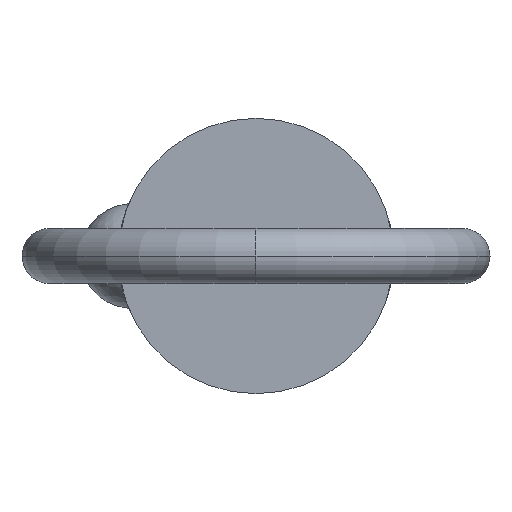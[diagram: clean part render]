
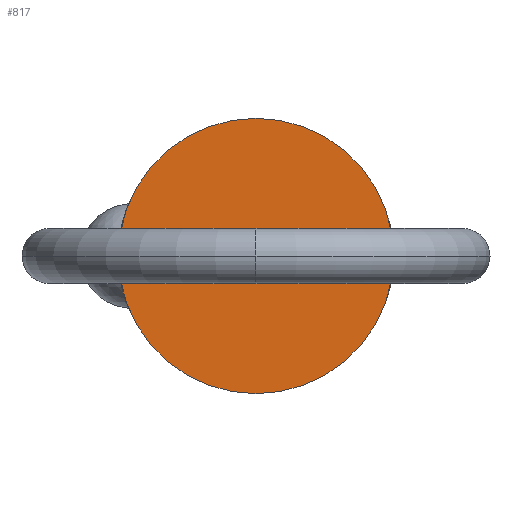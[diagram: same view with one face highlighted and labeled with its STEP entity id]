
A CAD part, left-side view. The second image highlights one B-rep face of the part: STEP entity #817.
In plain terms, the highlighted planar face has unit normal (-1, 0, 0).
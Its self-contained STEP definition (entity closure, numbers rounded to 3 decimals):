
#1 = DIRECTION ( 'NONE',  ( -1., 0., 0. ) ) ;
#12 = EDGE_LOOP ( 'NONE', ( #722, #523 ) ) ;
#15 = CARTESIAN_POINT ( 'NONE',  ( 0., 0., 12.7 ) ) ;
#18 = DIRECTION ( 'NONE',  ( 0., 0., -1. ) ) ;
#69 = VERTEX_POINT ( 'NONE', #15 ) ;
#128 = CARTESIAN_POINT ( 'NONE',  ( 0., 0., -12.7 ) ) ;
#158 = DIRECTION ( 'NONE',  ( 1., 0., 0. ) ) ;
#161 = DIRECTION ( 'NONE',  ( 1., 0., 0. ) ) ;
#212 = CIRCLE ( 'NONE', #815, 12.7 ) ;
#219 = AXIS2_PLACEMENT_3D ( 'NONE', #947, #161, #18 ) ;
#239 = CARTESIAN_POINT ( 'NONE',  ( 0., 0., 0. ) ) ;
#302 = AXIS2_PLACEMENT_3D ( 'NONE', #834, #1, #311 ) ;
#311 = DIRECTION ( 'NONE',  ( 0., 0., 1. ) ) ;
#382 = FACE_OUTER_BOUND ( 'NONE', #12, .T. ) ;
#444 = EDGE_CURVE ( 'NONE', #682, #69, #212, .T. ) ;
#523 = ORIENTED_EDGE ( 'NONE', *, *, #979, .F. ) ;
#682 = VERTEX_POINT ( 'NONE', #128 ) ;
#722 = ORIENTED_EDGE ( 'NONE', *, *, #444, .F. ) ;
#815 = AXIS2_PLACEMENT_3D ( 'NONE', #239, #158, #846 ) ;
#817 = ADVANCED_FACE ( 'NONE', ( #382 ), #925, .T. ) ;
#834 = CARTESIAN_POINT ( 'NONE',  ( 0., 0., 0. ) ) ;
#846 = DIRECTION ( 'NONE',  ( 0., 0., -1. ) ) ;
#925 = PLANE ( 'NONE',  #302 ) ;
#947 = CARTESIAN_POINT ( 'NONE',  ( 0., 0., 0. ) ) ;
#971 = CIRCLE ( 'NONE', #219, 12.7 ) ;
#979 = EDGE_CURVE ( 'NONE', #69, #682, #971, .T. ) ;
